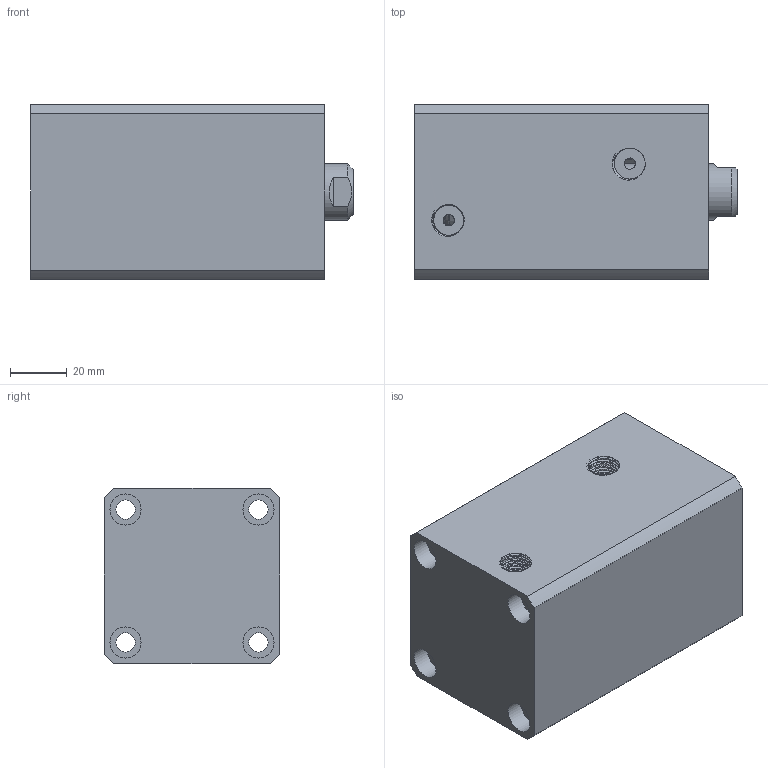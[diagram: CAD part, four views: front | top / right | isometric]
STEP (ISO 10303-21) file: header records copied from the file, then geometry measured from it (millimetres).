
FILE_DESCRIPTION(/* description */ (''),/* implementation_level */ '2;1');
FILE_NAME(/* name */ 'CHTB-sd32x50n.stp',/* time_stamp */ '2022-04-29T16:40:06+08:00',/* author */ (''),/* organization */ (''),/* preprocessor_version */ 'ST-DEVELOPER v16.7',/* originating_system */ 'SIEMENS PLM Software NX 12.0',/* authorisation */ '');
FILE_SCHEMA (('AUTOMOTIVE_DESIGN { 1 0 10303 214 3 1 1 1 }'));
Length unit declared in the file: millimetre
Products named in the file (1): CHTB-sd32x50n
Bounding box: 114 x 62 x 62 mm (x, y, z)
Volume: 313655.3 mm3; surface area: 73151.9 mm2
Topology: 2 solids, 3 shells, 506 faces, 1406 edges, 945 vertices
Faces by surface type: plane 268, extrusion 97, cylinder 72, bspline 38, cone 19, torus 12
Full cylindrical faces by diameter (mm): 3 x2, 4 x2, 6.8 x4, 10 x7, 11 x17, 20 x2, 24.5 x1, 26 x2, 32 x4, 40 x1
Entity records: 29852 total; most frequent: CARTESIAN_POINT 16418, ORIENTED_EDGE 2506, DIRECTION 1730, EDGE_CURVE 1253, VERTEX_POINT 870, VECTOR 838, LINE 741, EDGE_LOOP 582
